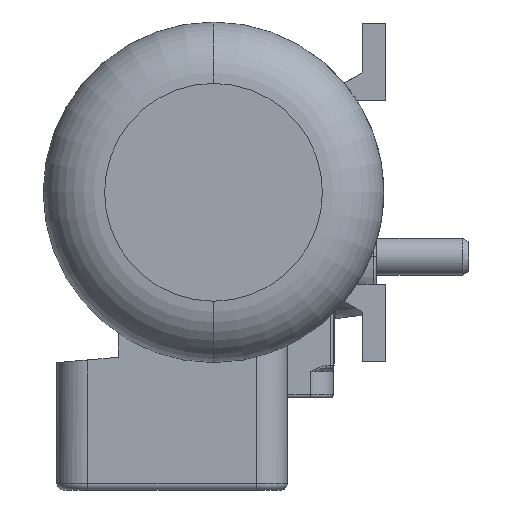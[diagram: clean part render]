
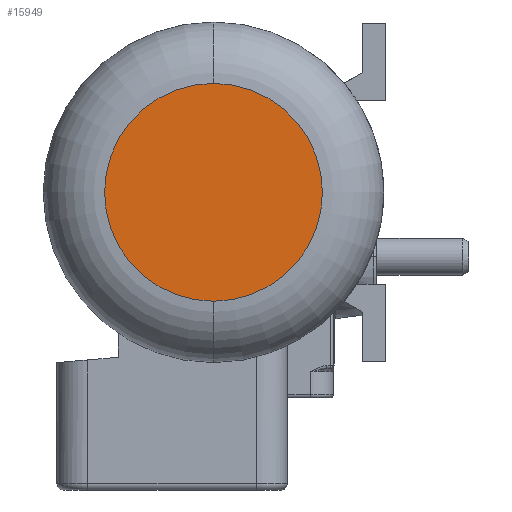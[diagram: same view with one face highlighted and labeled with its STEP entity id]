
A CAD part, left-side view. The second image highlights one B-rep face of the part: STEP entity #15949.
In plain terms, the highlighted planar face has unit normal (-1, 0, 0).
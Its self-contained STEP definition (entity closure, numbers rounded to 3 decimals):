
#66 = AXIS2_PLACEMENT_3D ( 'NONE', #2935, #7825, #12823 ) ;
#525 = VERTEX_POINT ( 'NONE', #10584 ) ;
#2811 = PLANE ( 'NONE',  #3778 ) ;
#2935 = CARTESIAN_POINT ( 'NONE',  ( 0., 0., 0. ) ) ;
#3778 = AXIS2_PLACEMENT_3D ( 'NONE', #6533, #5282, #10360 ) ;
#4247 = EDGE_CURVE ( 'NONE', #525, #8357, #9158, .T. ) ;
#5282 = DIRECTION ( 'NONE',  ( 1., 0., 0. ) ) ;
#5359 = FACE_OUTER_BOUND ( 'NONE', #7929, .T. ) ;
#5602 = DIRECTION ( 'NONE',  ( -1., 0., 0. ) ) ;
#6181 = ORIENTED_EDGE ( 'NONE', *, *, #4247, .T. ) ;
#6533 = CARTESIAN_POINT ( 'NONE',  ( 0., 0., 0. ) ) ;
#6853 = CARTESIAN_POINT ( 'NONE',  ( 0., 0., 0. ) ) ;
#7825 = DIRECTION ( 'NONE',  ( -1., 0., 0. ) ) ;
#7929 = EDGE_LOOP ( 'NONE', ( #13669, #6181 ) ) ;
#8357 = VERTEX_POINT ( 'NONE', #11195 ) ;
#9158 = CIRCLE ( 'NONE', #10492, 35.5 ) ;
#10360 = DIRECTION ( 'NONE',  ( 0., 0., -1. ) ) ;
#10492 = AXIS2_PLACEMENT_3D ( 'NONE', #6853, #5602, #15740 ) ;
#10584 = CARTESIAN_POINT ( 'NONE',  ( 0., 0., 35.5 ) ) ;
#11195 = CARTESIAN_POINT ( 'NONE',  ( 0., 0., -35.5 ) ) ;
#12823 = DIRECTION ( 'NONE',  ( 0., 0., -1. ) ) ;
#13669 = ORIENTED_EDGE ( 'NONE', *, *, #13732, .T. ) ;
#13732 = EDGE_CURVE ( 'NONE', #8357, #525, #14375, .T. ) ;
#14375 = CIRCLE ( 'NONE', #66, 35.5 ) ;
#15740 = DIRECTION ( 'NONE',  ( 0., 0., -1. ) ) ;
#15949 = ADVANCED_FACE ( 'NONE', ( #5359 ), #2811, .F. ) ;
